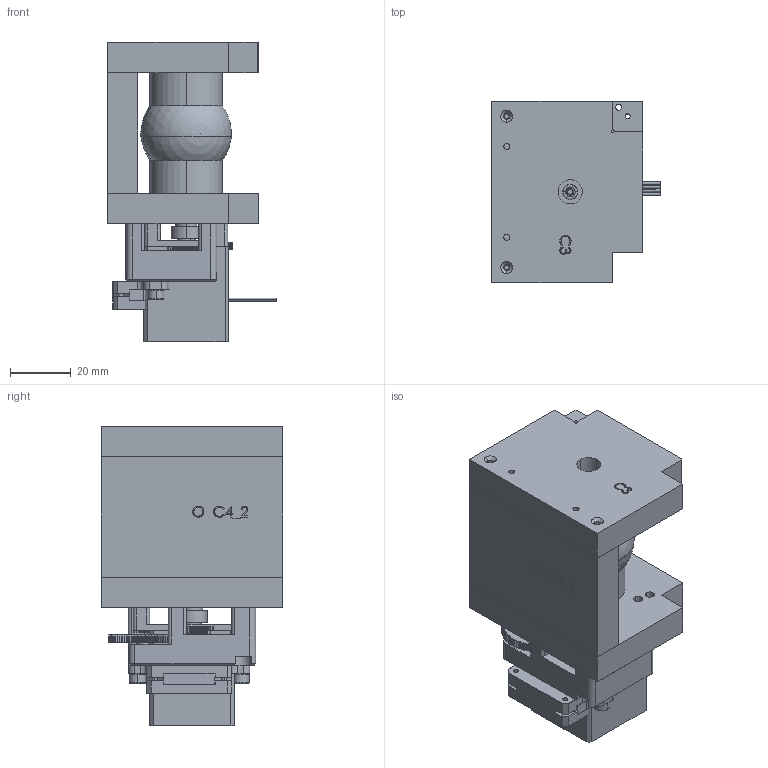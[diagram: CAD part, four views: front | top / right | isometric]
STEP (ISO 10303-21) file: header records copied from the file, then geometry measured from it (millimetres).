
FILE_DESCRIPTION (( 'STEP AP214' ), '1' );
FILE_NAME ('Assieme sezione gruppo Ovest.STEP', '2016-02-27T12:29:53', ( '' ), ( '' ), 'SwSTEP 2.0', 'SolidWorks 2012', '' );
FILE_SCHEMA (( 'AUTOMOTIVE_DESIGN' ));
Length unit declared in the file: millimetre
Products named in the file (33): motore step STF2818X0504; seeger espansione d2; instrument ball bearing_68_am_AFBMA 12.1.4.1 - 0020-6 - 8,SI,NC,8_68; Assieme mot Pamoco e flangia; spur gear_iso_ISO - Spur gear 0.3M 75T 20PA 2.5FW ---S75A75H50L4.0N; Endplatte_STF2818X0504; C13_N; Assieme sezione gruppo Ovest; Assieme riduttore nanotec; pernetto centrale; C3_N; giunto baionetta; alberino semplice; flngia pamoco; spur gear_iso_ISO - Spur gear 0.3M 20T 20PA 2.5FW ---S20A75H50L2.0N; vite M3 x 7; Frontplatte_STF2818X0504; ass sfera_motore OVEST; spur gear_iso_ISO - Spur gear 0.3M 100T 20PA 2.5FW ---S100A75H50L4.0N; pernetto rinvio; motore pamoco serie28; spur gear_iso_ISO - Spur gear 0.3M 25T 20PA 2.5FW ---S25A75H50L3.0N; ISO 7046-1 Z M1,6 x 8 - 4.8 - Z; raccordo motore; C5; radial ball bearing_68_skf_SKF - 623 - 8,SI,NC,8_68; Stator_STF2818X0504; Welle_STF2818X0504; C4_2; C6; raccordo motore trascinato; dist_EST_1; platina riduttore_2
Assembly tree (41 placements, depth 4):
  Assieme sezione gruppo Ovest
    C3_N
    C13_N
    C4_2
    Assieme riduttore nanotec
      motore step STF2818X0504
        Frontplatte_STF2818X0504
        Stator_STF2818X0504
        Endplatte_STF2818X0504
        Welle_STF2818X0504
        ISO 7046-1 Z M1,6 x 8 - 4.8 - Z  x4
      radial ball bearing_68_skf_SKF - 623 - 8,SI,NC,8_68  x2
      pernetto centrale
      instrument ball bearing_68_am_AFBMA 12.1.4.1 - 0020-6 - 8,SI,NC,8_68
      pernetto rinvio
      vite M3 x 7  x2
      spur gear_iso_ISO - Spur gear 0.3M 75T 20PA 2.5FW ---S75A75H50L4.0N
      spur gear_iso_ISO - Spur gear 0.3M 20T 20PA 2.5FW ---S20A75H50L2.0N
      spur gear_iso_ISO - Spur gear 0.3M 100T 20PA 2.5FW ---S100A75H50L4.0N
      spur gear_iso_ISO - Spur gear 0.3M 25T 20PA 2.5FW ---S25A75H50L3.0N
      platina riduttore_2
    ass sfera_motore OVEST
      C5
      C6
      alberino semplice
    instrument ball bearing_68_am_AFBMA 12.1.4.1 - 0020-6 - 8,SI,NC,8_68  x2
    seeger espansione d2  x2
    Assieme mot Pamoco e flangia
      flngia pamoco
      motore pamoco serie28
    raccordo motore
    dist_EST_1  x2
    raccordo motore trascinato
    giunto baionetta
Bounding box: 55.8 x 60 x 99 mm (x, y, z)
Volume: 141547.6 mm3; surface area: 62678 mm2
Topology: 38 solids, 38 shells, 2210 faces, 5964 edges, 3887 vertices
Faces by surface type: cylinder 1371, plane 462, cone 205, bspline 100, torus 60, sphere 12
Entity records: 76406 total; most frequent: CARTESIAN_POINT 21798, DIRECTION 11421, ORIENTED_EDGE 10434, EDGE_CURVE 5217, AXIS2_PLACEMENT_3D 4622, VERTEX_POINT 3418, CIRCLE 2744, VECTOR 2177
